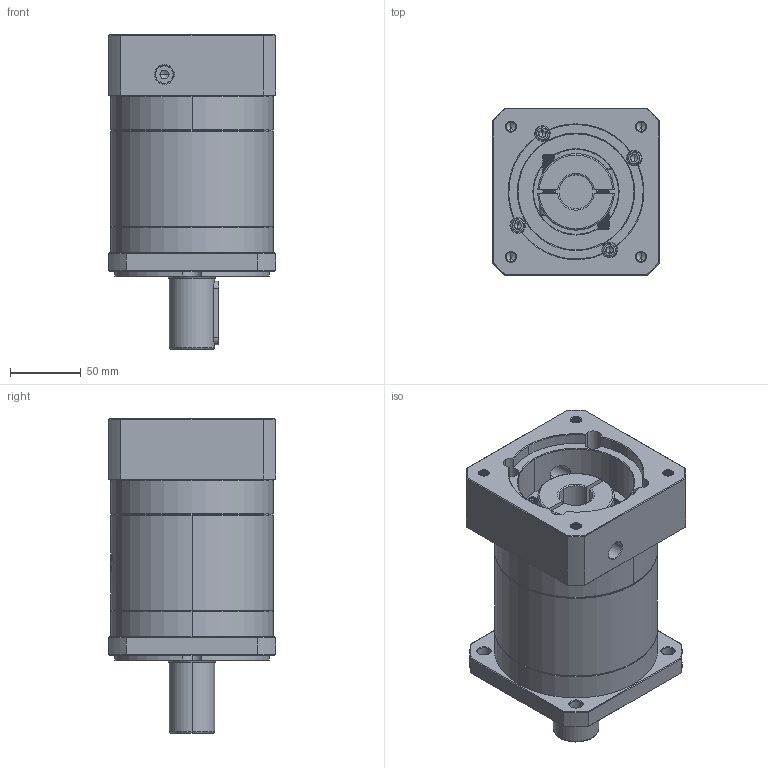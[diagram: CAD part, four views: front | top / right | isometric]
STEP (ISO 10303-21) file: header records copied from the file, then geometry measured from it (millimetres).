
FILE_DESCRIPTION (( 'STEP AP214' ), '1' );
FILE_NAME ('ZF120A-D32-L2-P2-24-95-130-M8.step', '2023-08-27T04:46:36', ( '' ), ( '' ), 'SwSTEP 2.0', 'SolidWorks 2016', '' );
FILE_SCHEMA (( 'AUTOMOTIVE_DESIGN' ));
Length unit declared in the file: millimetre
Products named in the file (1): ZF120A-D32-L2-P2-24-95-130-M8
Bounding box: 118 x 118 x 222 mm (x, y, z)
Volume: 1771588.2 mm3; surface area: 177107 mm2
Topology: 6 solids, 6 shells, 2225 faces, 5918 edges, 3794 vertices
Faces by surface type: plane 1034, cylinder 425, bspline 419, cone 327, torus 20
Entity records: 123382 total; most frequent: CARTESIAN_POINT 48992, ORIENTED_EDGE 11776, DIRECTION 8538, EDGE_CURVE 5888, VERTEX_POINT 3794, VECTOR 3098, LINE 3098, AXIS2_PLACEMENT_3D 2720
